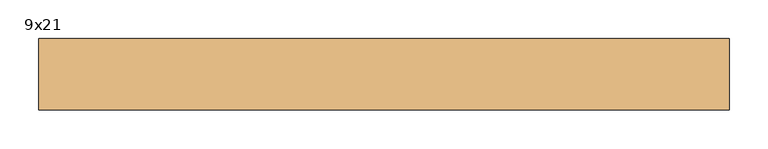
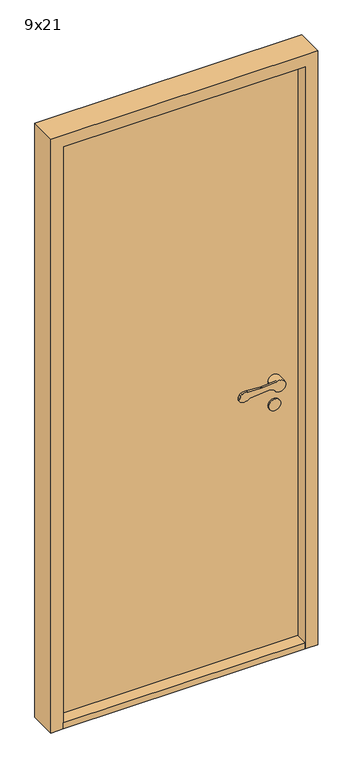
"""IFC4 building model written with IfcOpenShell, lengths in millimetres: door geometry, Innerdør Slett (Diplomat) : 9x21."""

from ifc_helpers import new_model, si_unit, point, frame, frame_2d, origin, origin_with_axes, place, context, project, spatial, polyline, circle_curve, trimmed, segment, composite_curve, outline, extrude, source, transform, mapped, element, save
from ifc_brep_helpers import plane_surface, cylinder_surface, revolved_surface, advanced_brep


def door_9x21_26e5542c(model_context):
    return source(origin(), model_context, "Body", "SolidModel", [
        advanced_brep(
        [(343.9611305, 15.0, 949.1175955), (358.3841161, 15.0, 942.6204086), (396.379633, 15.0, 951.3474568), (367.2687793, 15.0, 969.1517356), (318.6891233, 15.0, 964.26032), (313.6202158, 15.0, 964.1804415), (268.8963175, 15.0, 967.2639242), (250.3175669, 15.0, 964.8810513), (245.505009, 15.0, 959.9624074), (241.8691983, 15.0, 951.8913379), (246.721536, 15.0, 938.7393398), (276.0476109, 15.0, 943.6260011), (338.8520664, 15.0, 949.9496913), (318.6891233, 22.1084716, 964.26032), (367.2687793, 22.1084716, 969.1517356), (356.379633, 22.1084716, 951.3474568), (358.3841161, 22.1084716, 942.6204086), (343.9611305, 22.1084716, 949.1175955), (338.8520664, 22.1084716, 949.9496913), (276.0476109, 22.1084716, 943.6260011), (246.721536, 22.1084716, 938.7393398), (241.8691983, 22.1084716, 951.8913379), (245.505009, 22.1084716, 959.9624074), (250.3175669, 22.1084716, 964.8810513), (268.8963175, 22.1084716, 967.2639242), (313.6202158, 22.1084716, 964.1804415), (396.379633, 50.0, 951.3474568), (356.379633, 50.0, 951.3474568)],
        [
            (0, 1),
            (1, 2, circle_curve(frame((376.379633, 15.0, 951.3474568), z_axis=(0.0, -1.0, 0.0), x_axis=(-1.0, 0.0, 0.0)), 20.0)),
            (2, 3, circle_curve(frame((376.379633, 15.0, 951.3474568), z_axis=(0.0, -1.0, 0.0), x_axis=(-1.0, 0.0, 0.0)), 20.0)),
            (3, 4),
            (4, 5, circle_curve(frame((315.683663, 15.0, 994.1093938), z_axis=(0.0, 1.0, 0.0), x_axis=(-0.9949691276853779, 0.0, -0.10018200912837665)), 30.0)),
            (5, 6),
            (6, 7, circle_curve(frame((263.2326797, 15.0, 937.8033877), z_axis=(0.0, -1.0, 0.0), x_axis=(-0.9949691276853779, 0.0, -0.10018200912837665)), 30.0)),
            (7, 8, circle_curve(frame((254.6226045, 15.0, 955.8551634), z_axis=(0.0, -1.0, 0.0), x_axis=(-0.9949691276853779, 0.0, -0.10018200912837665)), 10.0)),
            (8, 9),
            (9, 10, circle_curve(frame((250.9867937, 15.0, 947.7840939), z_axis=(0.0, -1.0, 0.0), x_axis=(-0.9949691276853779, 0.0, -0.10018200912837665)), 10.0)),
            (10, 11, circle_curve(frame((257.8569644, 15.0, 962.352734), z_axis=(0.0, -1.0, 0.0), x_axis=(-0.9949691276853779, 0.0, -0.10018200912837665)), 26.1072815)),
            (11, 12),
            (12, 0, circle_curve(frame((339.8538865, 15.0, 940.0), z_axis=(0.0, 1.0, 0.0), x_axis=(-0.9949691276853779, 0.0, -0.10018200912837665)), 10.0)),
            (13, 14),
            (14, 15, circle_curve(frame((376.379633, 22.1084716, 951.3474568), z_axis=(0.0, -1.0, 0.0), x_axis=(-1.0, 0.0, 0.0)), 20.0)),
            (15, 16, circle_curve(frame((376.379633, 22.1084716, 951.3474568), z_axis=(0.0, -1.0, 0.0), x_axis=(-1.0, 0.0, 0.0)), 20.0)),
            (16, 17),
            (17, 18, circle_curve(frame((339.8538865, 22.1084716, 940.0), z_axis=(0.0, -1.0, 0.0), x_axis=(-0.9949691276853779, 0.0, -0.10018200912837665)), 10.0)),
            (18, 19),
            (19, 20, circle_curve(frame((257.8569644, 22.1084716, 962.352734), z_axis=(0.0, 1.0, 0.0), x_axis=(-0.9949691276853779, 0.0, -0.10018200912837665)), 26.1072815)),
            (20, 21, circle_curve(frame((250.9867937, 22.1084716, 947.7840939), z_axis=(0.0, 1.0, 0.0), x_axis=(-0.9949691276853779, 0.0, -0.10018200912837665)), 10.0)),
            (21, 22),
            (22, 23, circle_curve(frame((254.6226045, 22.1084716, 955.8551634), z_axis=(0.0, 1.0, 0.0), x_axis=(-0.9949691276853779, 0.0, -0.10018200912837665)), 10.0)),
            (23, 24, circle_curve(frame((263.2326797, 22.1084716, 937.8033877), z_axis=(0.0, 1.0, 0.0), x_axis=(-0.9949691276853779, 0.0, -0.10018200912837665)), 30.0)),
            (24, 25),
            (25, 13, circle_curve(frame((315.683663, 22.1084716, 994.1093938), z_axis=(0.0, -1.0, 0.0), x_axis=(-0.9949691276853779, 0.0, -0.10018200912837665)), 30.0)),
            (3, 14),
            (13, 4),
            (16, 1),
            (0, 17),
            (12, 18),
            (11, 19),
            (10, 20),
            (9, 21),
            (8, 22),
            (7, 23),
            (6, 24),
            (5, 25),
            (26, 27, circle_curve(frame((376.379633, 50.0, 951.3474568), z_axis=(0.0, 1.0, 0.0), x_axis=(-1.0, 0.0, 0.0)), 20.0)),
            (27, 26, circle_curve(frame((376.379633, 50.0, 951.3474568), z_axis=(0.0, 1.0, 0.0), x_axis=(-1.0, 0.0, 0.0)), 20.0)),
            (26, 2),
            (15, 27),
        ],
        [
            plane_surface(frame((367.6960588, 15.0, 969.1947577), z_axis=(0.0, -1.0000000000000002, 0.0), x_axis=(0.9949691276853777, 0.0, 0.10018200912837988))),
            plane_surface(frame((367.6960588, 22.1084716, 969.1947577), z_axis=(0.0, 1.0000000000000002, 0.0), x_axis=(-0.9949691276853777, 0.0, -0.10018200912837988))),
            plane_surface(frame((318.6891233, 15.0, 964.26032), z_axis=(-0.10018200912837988, 0.0, 0.9949691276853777), x_axis=(0.0, 1.0, 0.0))),
            plane_surface(frame((376.9687366, 15.0, 934.2485115), z_axis=(-0.41072439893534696, 0.0, -0.91175954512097), x_axis=(0.0, 1.0, 0.0))),
            revolved_surface(polyline([(329.9041952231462, 22.1084716, 938.9981799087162), (329.9041952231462, 15.0, 938.9981799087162)]), (339.8538865, 22.1084716, 940.0), (0.0, 1.0, 0.0)),
            plane_surface(frame((338.8520664, 15.0, 949.9496913), z_axis=(0.10018200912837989, 0.0, -0.9949691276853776), x_axis=(0.0, 1.0, 0.0))),
            cylinder_surface(frame((257.8569644, 22.1084716, 962.352734), z_axis=(0.0, -1.0, 0.0), x_axis=(-0.9949691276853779, 0.0, -0.10018200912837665)), 26.1072815),
            cylinder_surface(frame((250.9867937, 22.1084716, 947.7840939), z_axis=(0.0, -1.0, 0.0), x_axis=(-0.9949691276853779, 0.0, -0.10018200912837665)), 10.0),
            plane_surface(frame((241.8691983, 15.0, 951.8913379), z_axis=(-0.9117595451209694, 0.0, 0.41072439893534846), x_axis=(0.0, 1.0, 0.0))),
            cylinder_surface(frame((254.6226045, 22.1084716, 955.8551634), z_axis=(0.0, -1.0, 0.0), x_axis=(-0.9949691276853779, 0.0, -0.10018200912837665)), 10.0),
            cylinder_surface(frame((263.2326797, 22.1084716, 937.8033877), z_axis=(0.0, -1.0, 0.0), x_axis=(-0.9949691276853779, 0.0, -0.10018200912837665)), 30.0),
            plane_surface(frame((268.8963175, 15.0, 967.2639242), z_axis=(0.06878157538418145, 0.0, 0.9976317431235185), x_axis=(0.0, 1.0, 0.0))),
            revolved_surface(polyline([(285.8345891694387, 22.1084716, 991.1039335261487), (285.8345891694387, 15.0, 991.1039335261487)]), (315.683663, 22.1084716, 994.1093938), (0.0, 1.0, 0.0)),
            plane_surface(frame((356.379633, 50.0, 951.3474568), z_axis=(0.0, 1.0, 0.0), x_axis=(0.0, 0.0, -1.0))),
            cylinder_surface(frame((376.379633, 50.0, 951.3474568), z_axis=(0.0, -1.0, 0.0), x_axis=(-1.0, 0.0, 0.0)), 20.0),
        ],
        [
            (0, [[1, 2, 3, 4, 5, 6, 7, 8, 9, 10, 11, 12, 13]]),
            (1, [[14, 15, 16, 17, 18, 19, 20, 21, 22, 23, 24, 25, 26]]),
            (2, [[-4, 27, -14, 28]]),
            (3, [[-17, 29, -1, 30]]),
            (4, [[31, -18, -30, -13]]),
            (5, [[32, -19, -31, -12]]),
            (6, [[33, -20, -32, -11]]),
            (7, [[34, -21, -33, -10]]),
            (8, [[35, -22, -34, -9]]),
            (9, [[36, -23, -35, -8]]),
            (10, [[37, -24, -36, -7]]),
            (11, [[38, -25, -37, -6]]),
            (12, [[-28, -26, -38, -5]]),
            (13, [[39, 40]]),
            (14, [[41, -2, -29, -16, 42, -39]]),
            (14, [[-42, -15, -27, -3, -41, -40]]),
        ],
    ),
        extrude(outline(composite_curve([segment(trimmed(circle_curve(frame_2d((866.3474568, 376.379633)), 20.0), [point((866.3474568, 396.379633))], [point((866.3474568, 356.379633))], False, "CARTESIAN"), True, "CONTINUOUS"), segment(trimmed(circle_curve(frame_2d((866.3474568, 376.379633)), 20.0), [point((866.3474568, 356.379633))], [point((866.3474568, 396.379633))], False, "CARTESIAN"), True, "CONTINUOUS")], self_intersect=False)), frame((0.0, 45.0, 0.0), z_axis=(0.0, 1.0, 0.0), x_axis=(0.0, 0.0, 1.0)), (0.0, 0.0, 1.0), 5.0),
        advanced_brep(
        [(343.9611305, 100.0, 949.1175955), (338.8520664, 100.0, 949.9496913), (276.0476109, 100.0, 943.6260011), (246.721536, 100.0, 938.7393398), (241.8691983, 100.0, 951.8913379), (245.505009, 100.0, 959.9624074), (250.3175669, 100.0, 964.8810513), (268.8963175, 100.0, 967.2639242), (313.6202158, 100.0, 964.1804415), (318.6891233, 100.0, 964.26032), (367.2687793, 100.0, 969.1517356), (396.379633, 100.0, 951.3474568), (358.3841161, 100.0, 942.6204086), (318.6891233, 92.8915284, 964.26032), (313.6202158, 92.8915284, 964.1804415), (268.8963175, 92.8915284, 967.2639242), (250.3175669, 92.8915284, 964.8810513), (245.505009, 92.8915284, 959.9624074), (241.8691983, 92.8915284, 951.8913379), (246.721536, 92.8915284, 938.7393398), (276.0476109, 92.8915284, 943.6260011), (338.8520664, 92.8915284, 949.9496913), (343.9611305, 92.8915284, 949.1175955), (358.3841161, 92.8915284, 942.6204086), (356.379633, 92.8915284, 951.3474568), (367.2687793, 92.8915284, 969.1517356), (396.379633, 65.0, 951.3474568), (356.379633, 65.0, 951.3474568)],
        [
            (0, 1, circle_curve(frame((339.8538865, 100.0, 940.0), z_axis=(0.0, -1.0, 0.0), x_axis=(-0.9949691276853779, 0.0, -0.10018200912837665)), 10.0)),
            (1, 2),
            (2, 3, circle_curve(frame((257.8569644, 100.0, 962.352734), z_axis=(0.0, 1.0, 0.0), x_axis=(-0.9949691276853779, 0.0, -0.10018200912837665)), 26.1072815)),
            (3, 4, circle_curve(frame((250.9867937, 100.0, 947.7840939), z_axis=(0.0, 1.0, 0.0), x_axis=(-0.9949691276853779, 0.0, -0.10018200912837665)), 10.0)),
            (4, 5),
            (5, 6, circle_curve(frame((254.6226045, 100.0, 955.8551634), z_axis=(0.0, 1.0, 0.0), x_axis=(-0.9949691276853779, 0.0, -0.10018200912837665)), 10.0)),
            (6, 7, circle_curve(frame((263.2326797, 100.0, 937.8033877), z_axis=(0.0, 1.0, 0.0), x_axis=(-0.9949691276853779, 0.0, -0.10018200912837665)), 30.0)),
            (7, 8),
            (8, 9, circle_curve(frame((315.683663, 100.0, 994.1093938), z_axis=(0.0, -1.0, 0.0), x_axis=(-0.9949691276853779, 0.0, -0.10018200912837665)), 30.0)),
            (9, 10),
            (10, 11, circle_curve(frame((376.379633, 100.0, 951.3474568), z_axis=(0.0, 1.0, 0.0), x_axis=(-1.0, 0.0, 0.0)), 20.0)),
            (11, 12, circle_curve(frame((376.379633, 100.0, 951.3474568), z_axis=(0.0, 1.0, 0.0), x_axis=(-1.0, 0.0, 0.0)), 20.0)),
            (12, 0),
            (13, 14, circle_curve(frame((315.683663, 92.8915284, 994.1093938), z_axis=(0.0, 1.0, 0.0), x_axis=(-0.9949691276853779, 0.0, -0.10018200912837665)), 30.0)),
            (14, 15),
            (15, 16, circle_curve(frame((263.2326797, 92.8915284, 937.8033877), z_axis=(0.0, -1.0, 0.0), x_axis=(-0.9949691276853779, 0.0, -0.10018200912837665)), 30.0)),
            (16, 17, circle_curve(frame((254.6226045, 92.8915284, 955.8551634), z_axis=(0.0, -1.0, 0.0), x_axis=(-0.9949691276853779, 0.0, -0.10018200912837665)), 10.0)),
            (17, 18),
            (18, 19, circle_curve(frame((250.9867937, 92.8915284, 947.7840939), z_axis=(0.0, -1.0, 0.0), x_axis=(-0.9949691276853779, 0.0, -0.10018200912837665)), 10.0)),
            (19, 20, circle_curve(frame((257.8569644, 92.8915284, 962.352734), z_axis=(0.0, -1.0, 0.0), x_axis=(-0.9949691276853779, 0.0, -0.10018200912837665)), 26.1072815)),
            (20, 21),
            (21, 22, circle_curve(frame((339.8538865, 92.8915284, 940.0), z_axis=(0.0, 1.0, 0.0), x_axis=(-0.9949691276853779, 0.0, -0.10018200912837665)), 10.0)),
            (22, 23),
            (23, 24, circle_curve(frame((376.379633, 92.8915284, 951.3474568), z_axis=(0.0, 1.0, 0.0), x_axis=(-1.0, 0.0, 0.0)), 20.0)),
            (24, 25, circle_curve(frame((376.379633, 92.8915284, 951.3474568), z_axis=(0.0, 1.0, 0.0), x_axis=(-1.0, 0.0, 0.0)), 20.0)),
            (25, 13),
            (9, 13),
            (25, 10),
            (22, 0),
            (12, 23),
            (21, 1),
            (20, 2),
            (19, 3),
            (18, 4),
            (17, 5),
            (16, 6),
            (15, 7),
            (14, 8),
            (26, 27, circle_curve(frame((376.379633, 65.0, 951.3474568), z_axis=(0.0, -1.0, 0.0), x_axis=(-1.0, 0.0, 0.0)), 20.0)),
            (27, 26, circle_curve(frame((376.379633, 65.0, 951.3474568), z_axis=(0.0, -1.0, 0.0), x_axis=(-1.0, 0.0, 0.0)), 20.0)),
            (27, 24),
            (11, 26),
        ],
        [
            plane_surface(frame((367.6960588, 100.0, 969.1947577), z_axis=(0.0, 1.0000000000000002, 0.0), x_axis=(0.9949691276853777, 0.0, 0.10018200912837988))),
            plane_surface(frame((367.6960588, 92.8915284, 969.1947577), z_axis=(0.0, -1.0000000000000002, 0.0), x_axis=(-0.9949691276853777, 0.0, -0.10018200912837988))),
            plane_surface(frame((318.6891233, 100.0, 964.26032), z_axis=(-0.10018200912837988, 0.0, 0.9949691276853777), x_axis=(0.0, -1.0, 0.0))),
            plane_surface(frame((376.9687366, 100.0, 934.2485115), z_axis=(-0.41072439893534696, 0.0, -0.91175954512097), x_axis=(0.0, -1.0, 0.0))),
            revolved_surface(polyline([(329.9041952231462, 92.8915284, 938.9981799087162), (329.9041952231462, 100.0, 938.9981799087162)]), (339.8538865, 92.8915284, 940.0), (0.0, -1.0, 0.0)),
            plane_surface(frame((338.8520664, 100.0, 949.9496913), z_axis=(0.10018200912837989, 0.0, -0.9949691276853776), x_axis=(0.0, -1.0, 0.0))),
            cylinder_surface(frame((257.8569644, 92.8915284, 962.352734), z_axis=(0.0, 1.0, 0.0), x_axis=(-0.9949691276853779, 0.0, -0.10018200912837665)), 26.1072815),
            cylinder_surface(frame((250.9867937, 92.8915284, 947.7840939), z_axis=(0.0, 1.0, 0.0), x_axis=(-0.9949691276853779, 0.0, -0.10018200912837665)), 10.0),
            plane_surface(frame((241.8691983, 100.0, 951.8913379), z_axis=(-0.9117595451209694, 0.0, 0.41072439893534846), x_axis=(0.0, -1.0, 0.0))),
            cylinder_surface(frame((254.6226045, 92.8915284, 955.8551634), z_axis=(0.0, 1.0, 0.0), x_axis=(-0.9949691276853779, 0.0, -0.10018200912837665)), 10.0),
            cylinder_surface(frame((263.2326797, 92.8915284, 937.8033877), z_axis=(0.0, 1.0, 0.0), x_axis=(-0.9949691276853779, 0.0, -0.10018200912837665)), 30.0),
            plane_surface(frame((268.8963175, 100.0, 967.2639242), z_axis=(0.06878157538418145, 0.0, 0.9976317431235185), x_axis=(0.0, -1.0, 0.0))),
            revolved_surface(polyline([(285.8345891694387, 92.8915284, 991.1039335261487), (285.8345891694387, 100.0, 991.1039335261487)]), (315.683663, 92.8915284, 994.1093938), (0.0, -1.0, 0.0)),
            plane_surface(frame((356.379633, 65.0, 951.3474568), z_axis=(0.0, -1.0, 0.0), x_axis=(0.0, 0.0, -1.0))),
            cylinder_surface(frame((376.379633, 65.0, 951.3474568), z_axis=(0.0, 1.0, 0.0), x_axis=(-1.0, 0.0, 0.0)), 20.0),
        ],
        [
            (0, [[1, 2, 3, 4, 5, 6, 7, 8, 9, 10, 11, 12, 13]]),
            (1, [[14, 15, 16, 17, 18, 19, 20, 21, 22, 23, 24, 25, 26]]),
            (2, [[27, -26, 28, -10]]),
            (3, [[29, -13, 30, -23]]),
            (4, [[-1, -29, -22, 31]]),
            (5, [[-2, -31, -21, 32]]),
            (6, [[-3, -32, -20, 33]]),
            (7, [[-4, -33, -19, 34]]),
            (8, [[-5, -34, -18, 35]]),
            (9, [[-6, -35, -17, 36]]),
            (10, [[-7, -36, -16, 37]]),
            (11, [[-8, -37, -15, 38]]),
            (12, [[-9, -38, -14, -27]]),
            (13, [[39, 40]]),
            (14, [[-40, 41, -24, -30, -12, 42]]),
            (14, [[-39, -42, -11, -28, -25, -41]]),
        ],
    ),
        extrude(outline(composite_curve([segment(trimmed(circle_curve(frame_2d((866.3474568, 376.379633)), 20.0), [point((866.3474568, 396.379633))], [point((866.3474568, 356.379633))], False, "CARTESIAN"), True, "CONTINUOUS"), segment(trimmed(circle_curve(frame_2d((866.3474568, 376.379633)), 20.0), [point((866.3474568, 356.379633))], [point((866.3474568, 396.379633))], False, "CARTESIAN"), True, "CONTINUOUS")], self_intersect=False)), frame((0.0, 65.0, 0.0), z_axis=(0.0, 1.0, 0.0), x_axis=(0.0, 0.0, 1.0)), (0.0, 0.0, 1.0), 5.0),
        extrude(outline(polyline([(456.379633, 8.0), (-349.620367, 8.0), (-349.620367, 100.0), (456.379633, 100.0), (456.379633, 8.0)])), origin_with_axes(), (0.0, 0.0, 1.0), 22.0),
        extrude(outline(polyline([(456.379633, 50.0), (-349.620367, 50.0), (-349.620367, 100.0), (456.379633, 100.0), (456.379633, 50.0)])), frame((0.0, 0.0, 22.0), z_axis=(0.0, 0.0, 1.0), x_axis=(1.0, 0.0, 0.0)), (0.0, 0.0, 1.0), 2031.0),
        extrude(outline(polyline([(0.0, -391.620367), (0.0, -349.620367), (2053.0, -349.620367), (2053.0, 456.379633), (0.0, 456.379633), (0.0, 498.379633), (2095.0, 498.379633), (2095.0, -391.620367), (0.0, -391.620367)])), frame((0.0, 8.0, 0.0), z_axis=(0.0, 1.0, 0.0), x_axis=(0.0, 0.0, 1.0)), (0.0, 0.0, 1.0), 92.0),
    ])


if __name__ == "__main__":
    model = new_model("IFC4")
    model_context = context("Model", 3, world=origin())
    ifc_project = project(units=[si_unit("LENGTHUNIT", "METRE", prefix="MILLI")], contexts=[model_context])
    site = spatial("IfcSite", under=ifc_project)
    building = spatial("IfcBuilding", under=site)
    placement = place(None, origin())
    door_9x21_shape = door_9x21_26e5542c(model_context)
    element("IfcDoor", 1, ObjectType="Innerdør Slett (Diplomat) : 9x21", at=placement, inside=building, context=model_context, shape_type="MappedRepresentation", body=[
        mapped(door_9x21_shape, transform((0.0, 0.0, 0.0), x_axis=(1.0, 0.0, 0.0), y_axis=(0.0, 1.0, 0.0), z_axis=(0.0, 0.0, 1.0))),
    ])
    save(model, "model.ifc")
